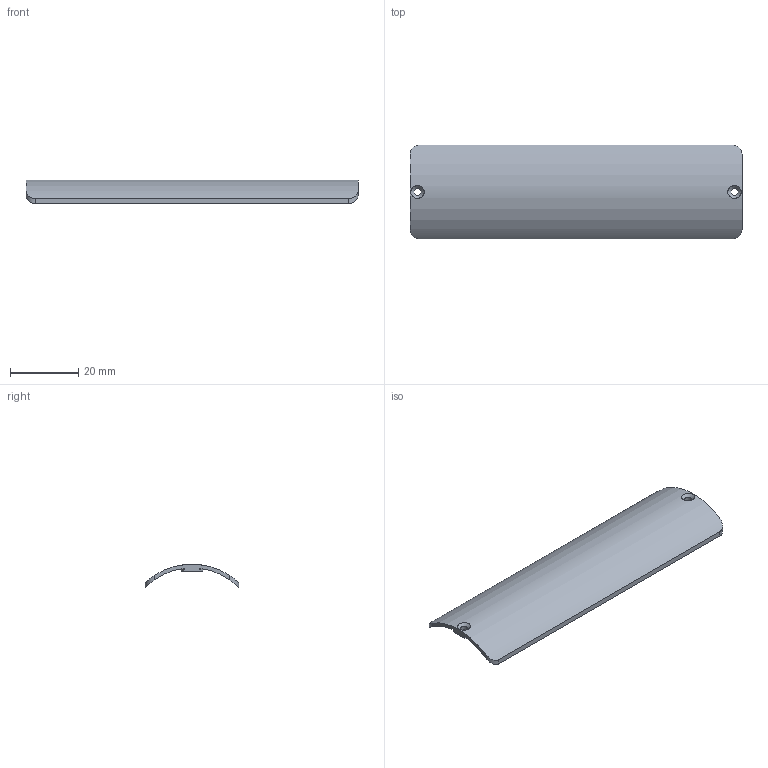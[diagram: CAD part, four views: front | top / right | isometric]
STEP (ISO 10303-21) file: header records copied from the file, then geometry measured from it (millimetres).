
FILE_DESCRIPTION(('SkyG Speed 90B - revision C6B-4 - 2026-10-08','HF-front-hatch'),'2;1');
FILE_NAME('HF-front-hatch_C6B-4','2026-10-08T07:02:32',('Author'),( 'Open CASCADE'),'Open CASCADE STEP processor 7.9','Open CASCADE 7.9' ,'Unknown');
FILE_SCHEMA(('AUTOMOTIVE_DESIGN { 1 0 10303 214 1 1 1 1 }'));
Length unit declared in the file: millimetre
Products named in the file (1): HF-front-hatch C6B-4
Bounding box: 97.4 x 27.4 x 6.98 mm (x, y, z)
Volume: 3283.7 mm3; surface area: 6313.7 mm2
Topology: 1 solids, 1 shells, 31 faces, 85 edges, 56 vertices
Faces by surface type: cylinder 15, plane 14, cone 2
Full cylindrical faces by diameter (mm): 2.2 x2
Entity records: 4177 total; most frequent: CARTESIAN_POINT 2606, DIRECTION 248, ORIENTED_EDGE 170, PCURVE 170, DEFINITIONAL_REPRESENTATION 170, LINE 108, VECTOR 108, B_SPLINE_CURVE_WITH_KNOTS 95
